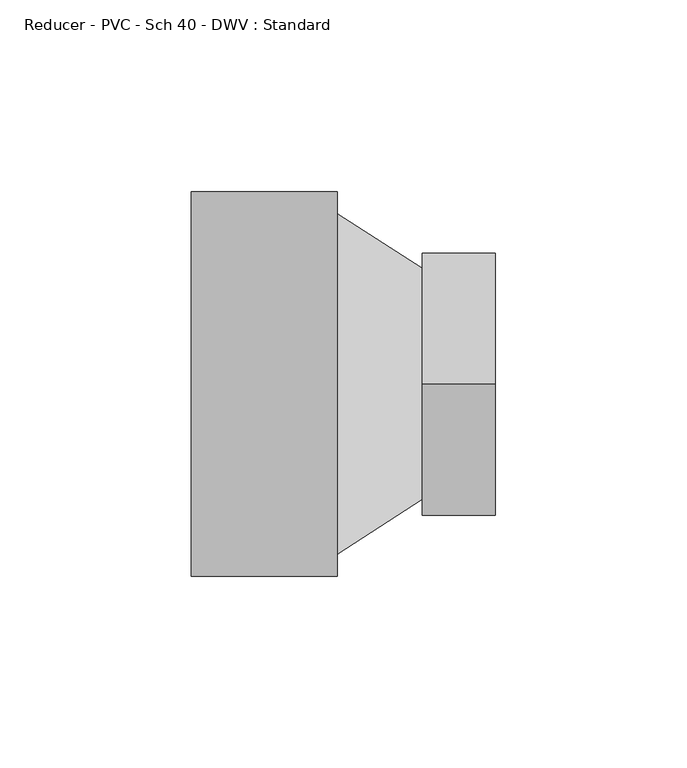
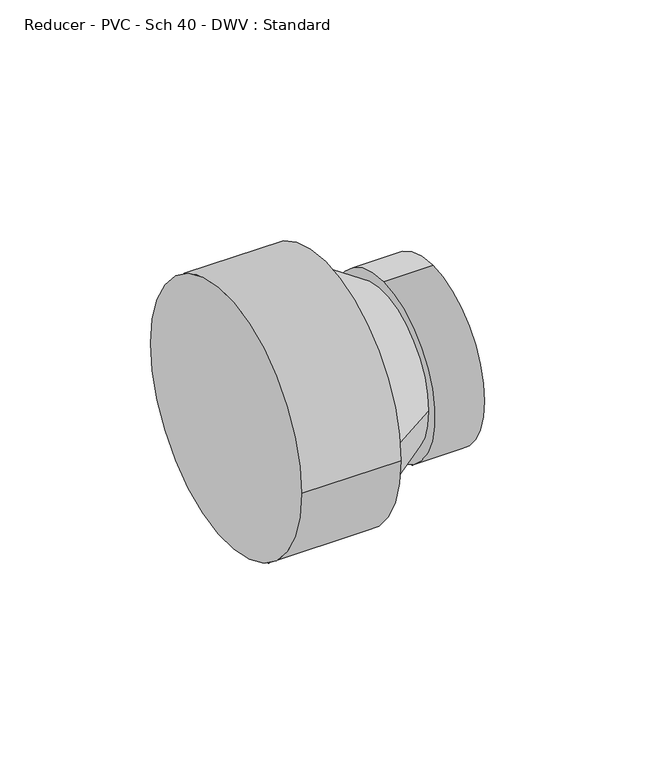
"""IFC4 building model written with IfcOpenShell, lengths in millimetres: pipe fitting geometry, Reducer - PVC - Sch 40 - DWV : Standard."""

from ifc_helpers import new_model, si_unit, frame, origin, place, context, project, spatial, circle_curve, source, transform, mapped, element, save
from ifc_brep_helpers import plane_surface, cylinder_surface, spline_surface, advanced_brep


def reducer_pvc_sch_40_dwv_standard_3677f2d3(model_context):
    return source(origin(), model_context, "Body", "AdvancedBrep", [
        advanced_brep(
        [(0.0, -50.2666, 0.0), (0.0, 50.2666, 0.0), (38.1, -50.2666, 0.0), (38.1, 50.2666, 0.0), (38.1, 44.45, 0.0), (38.1, -44.45, 0.0), (60.325, 30.1655946, 0.0030946), (60.325, -30.1594054, 0.0030946), (60.325, 0.0030946, 34.3184946), (60.325, 0.0030946, -34.3123054), (79.375, 0.0030946, 34.3184946), (79.375, 0.0030946, -34.3123054)],
        [
            (0, 1, circle_curve(frame((0.0, 0.0, 0.0), z_axis=(-1.0, 0.0, 0.0), x_axis=(0.0, 1.0, 0.0)), 50.2666)),
            (1, 0, circle_curve(frame((0.0, 0.0, 0.0), z_axis=(-1.0, 0.0, 0.0), x_axis=(0.0, 1.0, 0.0)), 50.2666)),
            (2, 3, circle_curve(frame((38.1, 0.0, 0.0), z_axis=(1.0, 0.0, 0.0), x_axis=(0.0, 1.0, 0.0)), 50.2666)),
            (3, 2, circle_curve(frame((38.1, 0.0, 0.0), z_axis=(1.0, 0.0, 0.0), x_axis=(0.0, 1.0, 0.0)), 50.2666)),
            (4, 5, circle_curve(frame((38.1, 0.0, 0.0), z_axis=(-1.0, 0.0, 0.0), x_axis=(0.0, 1.0, 0.0)), 44.45)),
            (5, 4, circle_curve(frame((38.1, 0.0, 0.0), z_axis=(-1.0, 0.0, 0.0), x_axis=(0.0, 1.0, 0.0)), 44.45)),
            (0, 2),
            (3, 1),
            (4, 6),
            (6, 7, circle_curve(frame((60.325, 0.0030946, 0.0030946), z_axis=(-1.0, 0.0, 0.0), x_axis=(0.0, 1.0, 0.0)), 30.1625)),
            (7, 5),
            (7, 6, circle_curve(frame((60.325, 0.0030946, 0.0030946), z_axis=(-1.0, 0.0, 0.0), x_axis=(0.0, 1.0, 0.0)), 30.1625)),
            (8, 9, circle_curve(frame((60.325, 0.0030946, 0.0030946), z_axis=(-1.0, 0.0, 0.0), x_axis=(0.0, 0.0, -1.0)), 34.3154)),
            (9, 8, circle_curve(frame((60.325, 0.0030946, 0.0030946), z_axis=(-1.0, 0.0, 0.0), x_axis=(0.0, 0.0, -1.0)), 34.3154)),
            (10, 11, circle_curve(frame((79.375, 0.0030946, 0.0030946), z_axis=(1.0, 0.0, 0.0), x_axis=(0.0, 0.0, -1.0)), 34.3154)),
            (11, 10, circle_curve(frame((79.375, 0.0030946, 0.0030946), z_axis=(1.0, 0.0, 0.0), x_axis=(0.0, 0.0, -1.0)), 34.3154)),
            (8, 10),
            (11, 9),
        ],
        [
            plane_surface(frame((0.0, 0.0, 0.0), z_axis=(-1.0, 0.0, 0.0), x_axis=(0.0, 0.0, 1.0))),
            plane_surface(frame((38.1, 0.0, 0.0), z_axis=(1.0, 0.0, 0.0), x_axis=(0.0, 0.0, 1.0))),
            cylinder_surface(frame((0.0, 0.0, 0.0), z_axis=(-1.0, 0.0, 0.0), x_axis=(0.0, 1.0, 0.0)), 50.2666),
            spline_surface(2, 1, [[(38.1, -44.45, 0.0), (60.325, -30.1594054, 0.0030946)], [(38.1, -44.45, -44.45), (60.325, -30.1594054, -30.1594054)], [(38.1, 0.0, -44.45), (60.325, 0.0030946, -30.1594054)], [(38.1, 44.45, -44.45), (60.325, 30.165594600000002, -30.1594054)], [(38.1, 44.45, 0.0), (60.325, 30.1655946, 0.0030946)]], [3, 2, 3], [2, 2], [0.0, 1.0, 2.0], [0.0, 1.0], weights=[[1.0, 1.0], [0.7071067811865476, 0.7071067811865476], [1.0, 1.0], [0.7071067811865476, 0.7071067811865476], [1.0, 1.0]]),
            spline_surface(2, 1, [[(38.1, 44.45, 0.0), (60.325, 30.1655946, 0.0030946)], [(38.1, 44.45, 44.45), (60.325, 30.1655946, 30.1655946)], [(38.1, 0.0, 44.45), (60.325, 0.0030946, 30.1655946)], [(38.1, -44.45, 44.45), (60.325, -30.159405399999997, 30.1655946)], [(38.1, -44.45, 0.0), (60.325, -30.1594054, 0.0030946)]], [3, 2, 3], [2, 2], [0.0, 1.0, 2.0], [0.0, 1.0], weights=[[1.0, 1.0], [0.7071067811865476, 0.7071067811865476], [1.0, 1.0], [0.7071067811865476, 0.7071067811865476], [1.0, 1.0]]),
            plane_surface(frame((60.325, 0.0030946, 0.0030946), z_axis=(-1.0, 0.0, 0.0), x_axis=(0.0, 1.0, 0.0))),
            plane_surface(frame((79.375, 0.0030946, 0.0030946), z_axis=(1.0, 0.0, 0.0), x_axis=(0.0, 1.0, 0.0))),
            cylinder_surface(frame((60.325, 0.0030946, 0.0030946), z_axis=(-1.0, 0.0, 0.0), x_axis=(0.0, 0.0, -1.0)), 34.3154),
        ],
        [
            (0, [[1, 2]]),
            (1, [[3, 4], [5, 6]]),
            (2, [[-1, 7, -4, 8]]),
            (2, [[-2, -8, -3, -7]]),
            (3, [[9, 10, 11, -5]]),
            (4, [[-9, -6, -11, 12]]),
            (5, [[13, 14], [-10, -12]]),
            (6, [[15, 16]]),
            (7, [[-13, 17, -16, 18]]),
            (7, [[-14, -18, -15, -17]]),
        ],
    ),
    ])


if __name__ == "__main__":
    model = new_model("IFC4")
    model_context = context("Model", 3, world=origin())
    ifc_project = project(units=[si_unit("LENGTHUNIT", "METRE", prefix="MILLI")], contexts=[model_context])
    site = spatial("IfcSite", under=ifc_project)
    building = spatial("IfcBuilding", under=site)
    placement = place(None, origin())
    reducer_pvc_sch_40_dwv_standard_shape = reducer_pvc_sch_40_dwv_standard_3677f2d3(model_context)
    element("IfcPipeFitting", 1, ObjectType="Reducer - PVC - Sch 40 - DWV : Standard", at=placement, inside=building, context=model_context, shape_type="MappedRepresentation", body=[
        mapped(reducer_pvc_sch_40_dwv_standard_shape, transform((0.0, 0.0, 0.0), x_axis=(1.0, 0.0, 0.0), y_axis=(0.0, 1.0, 0.0), z_axis=(0.0, 0.0, 1.0))),
    ])
    save(model, "model.ifc")
